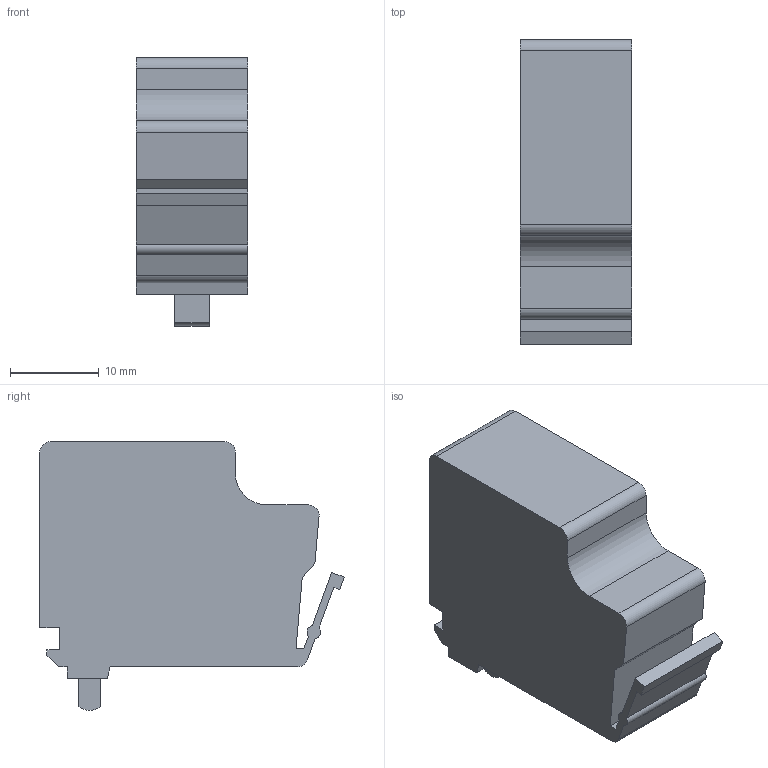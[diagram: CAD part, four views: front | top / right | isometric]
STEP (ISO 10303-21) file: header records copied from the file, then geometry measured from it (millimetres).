
FILE_DESCRIPTION (( 'STEP AP214' ), '1' );
FILE_NAME ('Êîíòàêò âñïîìîãàòåëüíûé ÂÊ, ÑÊ1, ÑÊ2 - OptiMat D.STEP', '2023-04-26T11:31:33', ( '' ), ( '' ), 'SwSTEP 2.0', 'SolidWorks 2018', '' );
FILE_SCHEMA (( 'AUTOMOTIVE_DESIGN' ));
Length unit declared in the file: millimetre
Products named in the file (1): Êîíòàêò âñïîìîãàòåëüíûé ÂÊ, ÑÊ1, ÑÊ2 - OptiMat D
Bounding box: 12.5 x 34.22 x 30.19 mm (x, y, z)
Volume: 8940.2 mm3; surface area: 3157.4 mm2
Topology: 1 solids, 1 shells, 40 faces, 111 edges, 74 vertices
Faces by surface type: plane 31, cylinder 9
Entity records: 1747 total; most frequent: CARTESIAN_POINT 226, ORIENTED_EDGE 222, DIRECTION 211, EDGE_CURVE 111, VECTOR 93, LINE 93, VERTEX_POINT 74, AXIS2_PLACEMENT_3D 59
